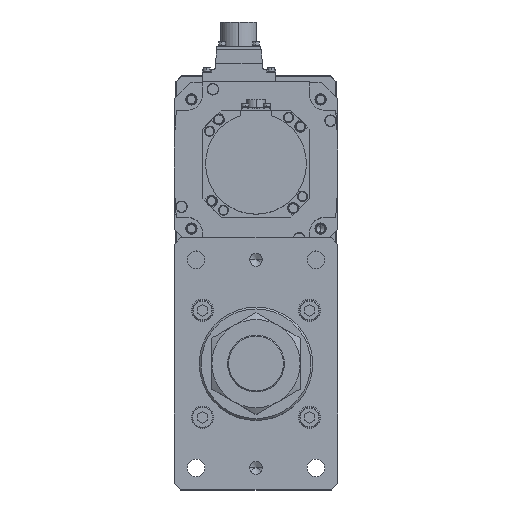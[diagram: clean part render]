
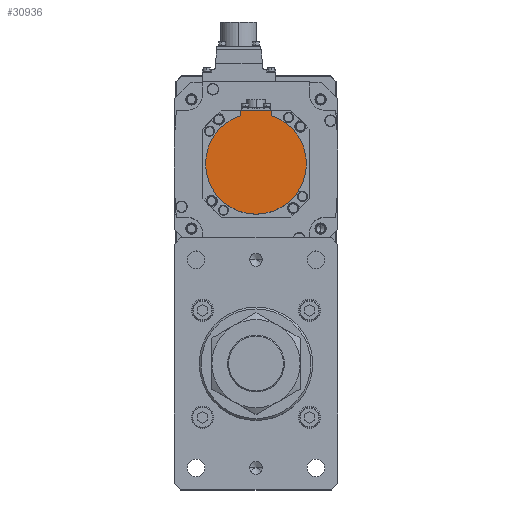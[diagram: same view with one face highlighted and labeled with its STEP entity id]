
A CAD part, top view. The second image highlights one B-rep face of the part: STEP entity #30936.
In plain terms, the highlighted planar face has unit normal (0, 0, 1) as drawn and (0, 0, -1) by its records, which use the part's own axes.
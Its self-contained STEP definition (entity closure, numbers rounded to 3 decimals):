
#2307 = EDGE_CURVE ( 'NONE', #34579, #9495, #20213, .T. ) ;
#2349 = VERTEX_POINT ( 'NONE', #23701 ) ;
#2686 = VERTEX_POINT ( 'NONE', #28311 ) ;
#3803 = EDGE_CURVE ( 'NONE', #21804, #30181, #25487, .T. ) ;
#3960 = DIRECTION ( 'NONE',  ( 1., 0., 0. ) ) ;
#4148 = VECTOR ( 'NONE', #26431, 1000. ) ;
#5832 = DIRECTION ( 'NONE',  ( 0., 0., 1. ) ) ;
#6299 = DIRECTION ( 'NONE',  ( 1., 0., 0. ) ) ;
#6652 = CARTESIAN_POINT ( 'NONE',  ( 0., 0., -146.5 ) ) ;
#8729 = DIRECTION ( 'NONE',  ( 0., 0., 1. ) ) ;
#9372 = ORIENTED_EDGE ( 'NONE', *, *, #32265, .T. ) ;
#9495 = VERTEX_POINT ( 'NONE', #32673 ) ;
#9867 = DIRECTION ( 'NONE',  ( 0., 1., 0. ) ) ;
#10724 = ORIENTED_EDGE ( 'NONE', *, *, #20538, .F. ) ;
#11277 = CARTESIAN_POINT ( 'NONE',  ( 40., 0., -146.5 ) ) ;
#12708 = EDGE_CURVE ( 'NONE', #2686, #9495, #13030, .T. ) ;
#12903 = DIRECTION ( 'NONE',  ( 0., 0., 1. ) ) ;
#13030 = LINE ( 'NONE', #26071, #33458 ) ;
#16294 = FACE_OUTER_BOUND ( 'NONE', #19303, .T. ) ;
#16709 = LINE ( 'NONE', #34234, #4148 ) ;
#16943 = CIRCLE ( 'NONE', #32322, 40. ) ;
#17954 = CARTESIAN_POINT ( 'NONE',  ( 12., -1.249, -146.5 ) ) ;
#18314 = DIRECTION ( 'NONE',  ( 0., 1., 0. ) ) ;
#19021 = CARTESIAN_POINT ( 'NONE',  ( 0., 0., -146.5 ) ) ;
#19084 = LINE ( 'NONE', #17954, #29484 ) ;
#19303 = EDGE_LOOP ( 'NONE', ( #20390, #22395, #19838, #23619, #10724, #9372 ) ) ;
#19419 = PLANE ( 'NONE',  #29051 ) ;
#19838 = ORIENTED_EDGE ( 'NONE', *, *, #21313, .F. ) ;
#20213 = CIRCLE ( 'NONE', #30899, 40. ) ;
#20390 = ORIENTED_EDGE ( 'NONE', *, *, #12708, .T. ) ;
#20538 = EDGE_CURVE ( 'NONE', #2349, #21804, #19084, .T. ) ;
#21313 = EDGE_CURVE ( 'NONE', #30181, #34579, #16943, .T. ) ;
#21581 = CARTESIAN_POINT ( 'NONE',  ( -40., 0., -146.5 ) ) ;
#21804 = VERTEX_POINT ( 'NONE', #32324 ) ;
#22395 = ORIENTED_EDGE ( 'NONE', *, *, #2307, .F. ) ;
#23619 = ORIENTED_EDGE ( 'NONE', *, *, #3803, .F. ) ;
#23701 = CARTESIAN_POINT ( 'NONE',  ( 12., -42.5, -146.5 ) ) ;
#24311 = DIRECTION ( 'NONE',  ( 1., 0., 0. ) ) ;
#24922 = AXIS2_PLACEMENT_3D ( 'NONE', #19021, #8729, #26942 ) ;
#25487 = CIRCLE ( 'NONE', #24922, 40. ) ;
#26071 = CARTESIAN_POINT ( 'NONE',  ( -12., -40.329, -146.5 ) ) ;
#26431 = DIRECTION ( 'NONE',  ( -1., 0., 0. ) ) ;
#26942 = DIRECTION ( 'NONE',  ( 1., 0., 0. ) ) ;
#27908 = DIRECTION ( 'NONE',  ( 0., 0., 1. ) ) ;
#28311 = CARTESIAN_POINT ( 'NONE',  ( -12., -42.5, -146.5 ) ) ;
#29051 = AXIS2_PLACEMENT_3D ( 'NONE', #32354, #5832, #24311 ) ;
#29484 = VECTOR ( 'NONE', #18314, 1000. ) ;
#30181 = VERTEX_POINT ( 'NONE', #11277 ) ;
#30751 = CARTESIAN_POINT ( 'NONE',  ( 0., 0., -146.5 ) ) ;
#30899 = AXIS2_PLACEMENT_3D ( 'NONE', #30751, #12903, #3960 ) ;
#30936 = ADVANCED_FACE ( 'NONE', ( #16294 ), #19419, .F. ) ;
#32265 = EDGE_CURVE ( 'NONE', #2349, #2686, #16709, .T. ) ;
#32322 = AXIS2_PLACEMENT_3D ( 'NONE', #6652, #27908, #6299 ) ;
#32324 = CARTESIAN_POINT ( 'NONE',  ( 12., -38.158, -146.5 ) ) ;
#32354 = CARTESIAN_POINT ( 'NONE',  ( 0., -1.249, -146.5 ) ) ;
#32673 = CARTESIAN_POINT ( 'NONE',  ( -12., -38.158, -146.5 ) ) ;
#33458 = VECTOR ( 'NONE', #9867, 1000. ) ;
#34234 = CARTESIAN_POINT ( 'NONE',  ( 0., -42.5, -146.5 ) ) ;
#34579 = VERTEX_POINT ( 'NONE', #21581 ) ;
